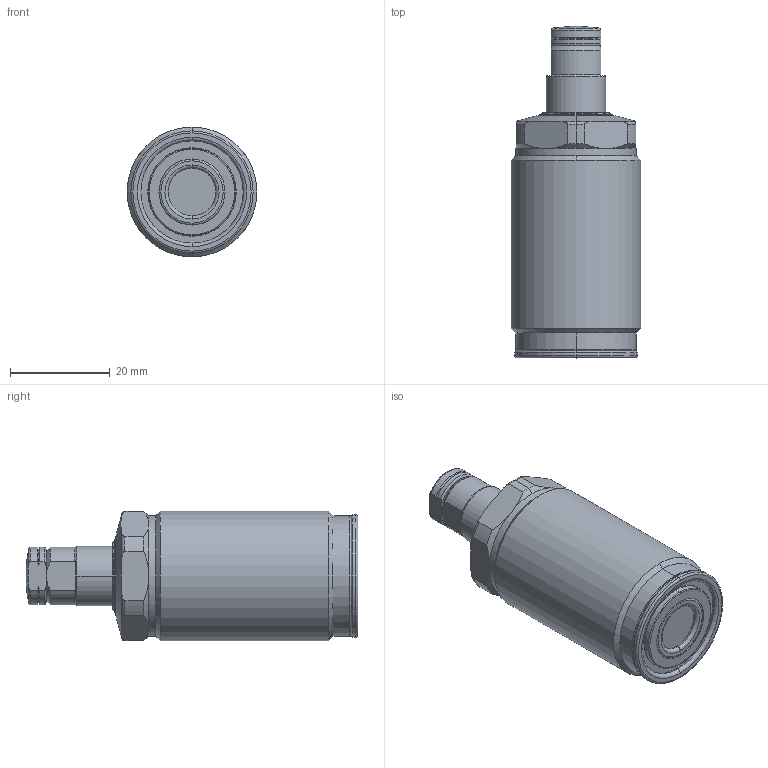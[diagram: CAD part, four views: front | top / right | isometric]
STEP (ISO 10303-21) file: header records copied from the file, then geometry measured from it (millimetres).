
FILE_DESCRIPTION(/* description */ (''),/* implementation_level */ '2;1');
FILE_NAME(/* name */ 'GSS00.stp',/* time_stamp */ '2025-01-10T09:27:44+08:00',/* author */ (''),/* organization */ (''),/* preprocessor_version */ 'ST-DEVELOPER v16.7',/* originating_system */ 'SIEMENS PLM Software NX 12.0',/* authorisation */ '');
FILE_SCHEMA (('AUTOMOTIVE_DESIGN { 1 0 10303 214 3 1 1 1 }'));
Length unit declared in the file: millimetre
Products named in the file (6): GSS00-002; GSS00-05; GSS00-04; GSS00-03; GSS00-01; GSS00_stp
Assembly tree (5 placements, depth 2):
  GSS00_stp
    GSS00-01
    GSS00-03
    GSS00-04
    GSS00-05
    GSS00-002
Bounding box: 26 x 66.5 x 26 mm (x, y, z)
Volume: 25442.8 mm3; surface area: 7256.2 mm2
Topology: 5 solids, 5 shells, 166 faces, 372 edges, 224 vertices
Faces by surface type: cylinder 48, torus 47, plane 35, cone 34, sphere 2
Full cylindrical faces by diameter (mm): 24.2 x1, 26 x1
Entity records: 5142 total; most frequent: CARTESIAN_POINT 1204, DIRECTION 886, ORIENTED_EDGE 746, AXIS2_PLACEMENT_3D 395, EDGE_CURVE 373, VERTEX_POINT 227, CIRCLE 217, EDGE_LOOP 182
